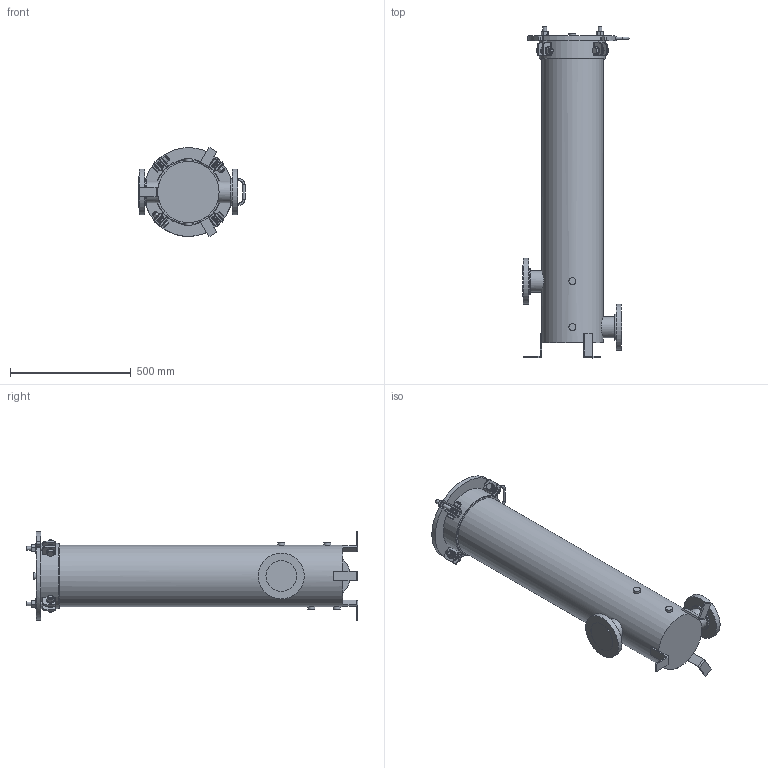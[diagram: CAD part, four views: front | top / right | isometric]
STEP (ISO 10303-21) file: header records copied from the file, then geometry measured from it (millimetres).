
FILE_DESCRIPTION (( 'STEP AP203' ), '1' );
FILE_NAME ('001021-00071.STEP', '2025-12-11T12:59:36', ( '' ), ( '' ), 'SwSTEP 2.0', 'SolidWorks 2023', '' );
FILE_SCHEMA (( 'CONFIG_CONTROL_DESIGN' ));
Length unit declared in the file: inch
Products named in the file (1): 001021-00071
Bounding box: 439.64 x 1374.78 x 371 mm (x, y, z)
Volume: 68591559.9 mm3; surface area: 1671441.7 mm2
Topology: 5 solids, 5 shells, 532 faces, 1206 edges, 746 vertices
Faces by surface type: plane 255, cone 139, cylinder 121, torus 14, bspline 3
Full cylindrical faces by diameter (mm): 9.525 x2, 15.875 x32, 23.813 x4, 26.987 x4, 28.575 x5, 33.325 x8, 44.45 x4, 88.9 x2, 127 x2, 190.5 x2, 254 x1, 273.05 x1
Entity records: 16072 total; most frequent: CARTESIAN_POINT 5047, DIRECTION 2246, ORIENTED_EDGE 2114, EDGE_CURVE 1057, AXIS2_PLACEMENT_3D 941, EDGE_LOOP 701, VERTEX_POINT 694, FACE_OUTER_BOUND 616
